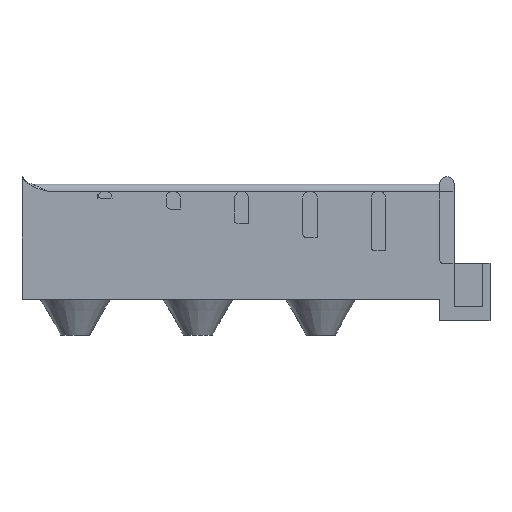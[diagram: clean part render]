
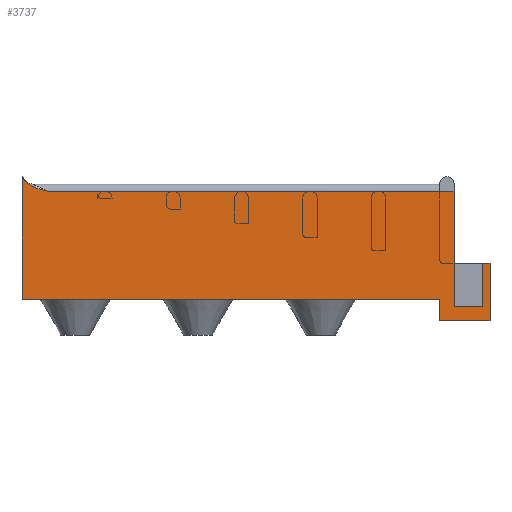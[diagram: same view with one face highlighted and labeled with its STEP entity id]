
A CAD part, left-side view. The second image highlights one B-rep face of the part: STEP entity #3737.
In plain terms, the highlighted planar face has unit normal (-1, 0, 0).
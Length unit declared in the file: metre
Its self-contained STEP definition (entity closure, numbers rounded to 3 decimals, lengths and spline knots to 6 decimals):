
#203=B_SPLINE_CURVE_WITH_KNOTS('',3,(#6593,#6594,#6595,#6596,#6597,#6598),
 .UNSPECIFIED.,.F.,.F.,(4,1,1,4),(0.,0.001656,
0.003312,0.006625),.UNSPECIFIED.);
#312=PLANE('',#4224);
#1174=ORIENTED_EDGE('',*,*,#2070,.F.);
#1175=ORIENTED_EDGE('',*,*,#1832,.T.);
#1176=ORIENTED_EDGE('',*,*,#2059,.T.);
#1177=ORIENTED_EDGE('',*,*,#2071,.T.);
#1178=ORIENTED_EDGE('',*,*,#1868,.T.);
#1179=ORIENTED_EDGE('',*,*,#2069,.F.);
#1180=ORIENTED_EDGE('',*,*,#1850,.F.);
#1181=ORIENTED_EDGE('',*,*,#1858,.T.);
#1182=ORIENTED_EDGE('',*,*,#1865,.F.);
#1183=ORIENTED_EDGE('',*,*,#2072,.T.);
#1184=ORIENTED_EDGE('',*,*,#1771,.T.);
#1185=ORIENTED_EDGE('',*,*,#2073,.T.);
#1771=EDGE_CURVE('',#2295,#2294,#2652,.T.);
#1832=EDGE_CURVE('',#2356,#2355,#2680,.T.);
#1850=EDGE_CURVE('',#2372,#2373,#2690,.T.);
#1858=EDGE_CURVE('',#2372,#2379,#2696,.T.);
#1865=EDGE_CURVE('',#2383,#2379,#2699,.T.);
#1868=EDGE_CURVE('',#2387,#2386,#2702,.T.);
#2059=EDGE_CURVE('',#2355,#2526,#2789,.T.);
#2069=EDGE_CURVE('',#2373,#2386,#2796,.T.);
#2070=EDGE_CURVE('',#2356,#2530,#2797,.T.);
#2071=EDGE_CURVE('',#2526,#2387,#203,.F.);
#2072=EDGE_CURVE('',#2383,#2295,#2798,.T.);
#2073=EDGE_CURVE('',#2294,#2530,#2799,.T.);
#2294=VERTEX_POINT('',#5799);
#2295=VERTEX_POINT('',#5801);
#2355=VERTEX_POINT('',#5986);
#2356=VERTEX_POINT('',#5988);
#2372=VERTEX_POINT('',#6031);
#2373=VERTEX_POINT('',#6033);
#2379=VERTEX_POINT('',#6047);
#2383=VERTEX_POINT('',#6073);
#2386=VERTEX_POINT('',#6080);
#2387=VERTEX_POINT('',#6082);
#2526=VERTEX_POINT('',#6567);
#2530=VERTEX_POINT('',#6592);
#2652=LINE('',#5800,#2902);
#2680=LINE('',#5987,#2930);
#2690=LINE('',#6032,#2940);
#2696=LINE('',#6048,#2946);
#2699=LINE('',#6074,#2949);
#2702=LINE('',#6081,#2952);
#2789=LINE('',#6568,#3039);
#2796=LINE('',#6589,#3046);
#2797=LINE('',#6591,#3047);
#2798=LINE('',#6599,#3048);
#2799=LINE('',#6600,#3049);
#2902=VECTOR('',#4689,1.);
#2930=VECTOR('',#4753,1.);
#2940=VECTOR('',#4779,1.);
#2946=VECTOR('',#4791,1.);
#2949=VECTOR('',#4804,1.);
#2952=VECTOR('',#4809,1.);
#3039=VECTOR('',#5154,1.);
#3046=VECTOR('',#5175,1.);
#3047=VECTOR('',#5178,1.);
#3048=VECTOR('',#5179,1.);
#3049=VECTOR('',#5180,1.);
#3187=EDGE_LOOP('',(#1174,#1175,#1176,#1177,#1178,#1179,#1180,#1181,#1182,
#1183,#1184,#1185));
#3430=FACE_BOUND('',#3187,.T.);
#3737=ADVANCED_FACE('',(#3430),#312,.T.);
#4224=AXIS2_PLACEMENT_3D('',#6590,#5176,#5177);
#4689=DIRECTION('',(0.,1.,0.));
#4753=DIRECTION('',(0.,0.,1.));
#4779=DIRECTION('',(0.,1.,0.));
#4791=DIRECTION('',(0.,0.,-1.));
#4804=DIRECTION('',(0.,1.,0.));
#4809=DIRECTION('',(0.,0.621,0.784));
#5154=DIRECTION('',(0.,1.,0.));
#5175=DIRECTION('',(0.,0.,1.));
#5176=DIRECTION('',(-1.,0.,0.));
#5177=DIRECTION('',(0.,0.,1.));
#5178=DIRECTION('',(0.,-1.,0.));
#5179=DIRECTION('',(0.,0.,1.));
#5180=DIRECTION('',(0.,0.,-1.));
#5799=CARTESIAN_POINT('',(-0.047684,-0.128,-0.010332));
#5800=CARTESIAN_POINT('',(-0.047684,-0.13,-0.010332));
#5801=CARTESIAN_POINT('',(-0.047684,-0.13,-0.010332));
#5986=CARTESIAN_POINT('',(-0.047684,-0.12,0.009735));
#5987=CARTESIAN_POINT('',(-0.047684,-0.12,-0.004299));
#5988=CARTESIAN_POINT('',(-0.047684,-0.12,-0.022333));
#6031=CARTESIAN_POINT('',(-0.047684,-0.116,-0.020333));
#6032=CARTESIAN_POINT('',(-0.047684,-0.12,-0.020333));
#6033=CARTESIAN_POINT('',(-0.047684,0.,-0.020333));
#6047=CARTESIAN_POINT('',(-0.047684,-0.116,-0.026333));
#6048=CARTESIAN_POINT('',(-0.047684,-0.116,-0.004299));
#6073=CARTESIAN_POINT('',(-0.047684,-0.13,-0.026333));
#6074=CARTESIAN_POINT('',(-0.047684,-0.12,-0.026333));
#6080=CARTESIAN_POINT('',(-0.047684,0.,0.013735));
#6081=CARTESIAN_POINT('',(-0.047684,-0.001947,0.01128));
#6082=CARTESIAN_POINT('',(-0.047684,-0.001052,0.012409));
#6567=CARTESIAN_POINT('',(-0.047684,-0.007001,0.009735));
#6568=CARTESIAN_POINT('',(-0.047684,-0.12,0.009735));
#6589=CARTESIAN_POINT('',(-0.047684,0.,-0.004299));
#6590=CARTESIAN_POINT('',(-0.047684,-0.12,-0.004299));
#6591=CARTESIAN_POINT('',(-0.047684,-0.124,-0.022333));
#6592=CARTESIAN_POINT('',(-0.047684,-0.128,-0.022333));
#6593=CARTESIAN_POINT('',(-0.047684,-0.001052,0.012409));
#6594=CARTESIAN_POINT('',(-0.047684,-0.0014,0.01197));
#6595=CARTESIAN_POINT('',(-0.047684,-0.002272,0.011263));
#6596=CARTESIAN_POINT('',(-0.047684,-0.004302,0.010387));
#6597=CARTESIAN_POINT('',(-0.047684,-0.00593,0.010001));
#6598=CARTESIAN_POINT('',(-0.047684,-0.007001,0.009735));
#6599=CARTESIAN_POINT('',(-0.047684,-0.13,-0.004299));
#6600=CARTESIAN_POINT('',(-0.047684,-0.128,-0.016333));
